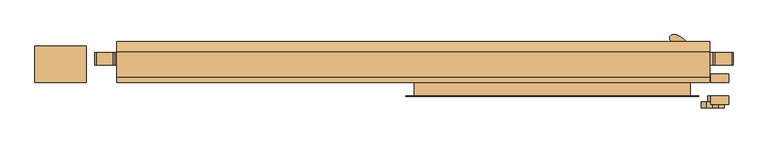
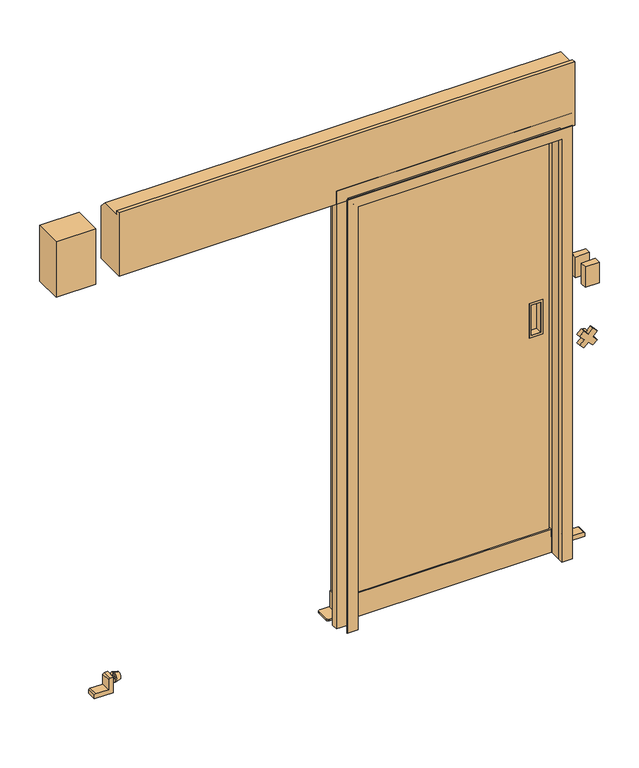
"""IFC4 building model written with IfcOpenShell, lengths in millimetres: door geometry, 冷蔵_片引きスライドドア3方_電動 : W870xH1905xt55."""

from ifc_helpers import new_model, si_unit, point, frame, frame_2d, origin, origin_with_axes, place, context, project, spatial, polyline, circle_curve, trimmed, segment, composite_curve, outline, extrude, faceted_brep, source, transform, mapped, element, save
from ifc_brep_helpers import plane_surface, cylinder_surface, revolved_surface, advanced_brep


def door_3e6fd68f(model_context):
    return source(origin(), model_context, "Body", "SolidModel", [
        faceted_brep([(470.0, 112.5, 1940.0), (-470.0, 112.5, 1940.0), (-470.0, 68.5, 1940.0), (470.0, 68.5, 1940.0), (470.0, 112.5, 70.0), (470.0, 68.5, 70.0), (425.0, 68.5, 70.0), (425.0, 57.5, 70.0), (-425.0, 57.5, 70.0), (-425.0, 68.5, 70.0), (-470.0, 68.5, 70.0), (-470.0, 112.5, 70.0), (-425.0, 68.5, 1895.0), (425.0, 68.5, 1895.0), (-425.0, 57.5, 1895.0), (425.0, 57.5, 1895.0), (350.500035, 57.5, 1138.0), (390.500035, 57.5, 1138.0), (390.500035, 57.5, 1002.0), (350.500035, 57.5, 1002.0), (350.500035, 85.5, 1138.0), (390.500035, 85.5, 1138.0), (350.500035, 85.5, 1002.0), (390.500035, 85.5, 1002.0)], [[[0, 1, 2, 3]], [[4, 5, 6, 7, 8, 9, 10, 11]], [[1, 0, 4, 11]], [[2, 1, 11, 10]], [[3, 2, 10, 9, 12, 13, 6, 5]], [[0, 3, 5, 4]], [[12, 14, 15, 13]], [[14, 12, 9, 8]], [[15, 14, 8, 7], [16, 17, 18, 19]], [[13, 15, 7, 6]], [[20, 21, 17, 16]], [[20, 16, 19, 22]], [[22, 19, 18, 23]], [[17, 21, 23, 18]], [[21, 20, 22, 23]]]),
        extrude(outline(polyline([(1147.0, 399.500035), (1147.0, 341.500035), (993.0, 341.500035), (993.0, 399.500035), (1147.0, 399.500035)]), holes=[polyline([(1002.0, 390.500035), (1002.0, 350.500035), (1138.0, 350.500035), (1138.0, 390.500035), (1002.0, 390.500035)])]), frame((0.0, 55.499995, 0.0), z_axis=(0.0, 1.0, 0.0), x_axis=(0.0, 0.0, 1.0)), (0.0, 0.0, 1.0), 2.000005),
        extrude(outline(polyline([(73.49997, 35.00001), (61.49997, 47.00001), (61.49997, 110.00001), (111.49997, 110.00001), (111.49997, 35.00001), (73.49997, 35.00001)])), frame((-476.0, 0.0, 0.0), z_axis=(1.0, 0.0, 0.0), x_axis=(0.0, 1.0, 0.0)), (0.0, 0.0, 1.0), 6.0),
        extrude(outline(polyline([(73.49997, 35.00001), (61.49997, 47.00001), (61.49997, 110.00001), (111.49997, 110.00001), (111.49997, 35.00001), (73.49997, 35.00001)])), frame((470.0, 0.0, 0.0), z_axis=(1.0, 0.0, 0.0), x_axis=(0.0, 1.0, 0.0)), (0.0, 0.0, 1.0), 6.0),
        extrude(outline(polyline([(470.0, 112.5), (470.0, 77.49997), (-470.0, 77.49997), (-470.0, 112.5), (470.0, 112.5)])), frame((0.0, 0.0, 35.00001), z_axis=(0.0, 0.0, 1.0), x_axis=(1.0, 0.0, 0.0)), (0.0, 0.0, 1.0), 34.99999),
        extrude(outline(polyline([(-432.0, 68.5), (432.0, 68.5), (432.0, 51.499345), (-432.0, 51.499345), (-432.0, 68.5)])), frame((0.0, 0.0, -0.004205), z_axis=(0.0, 0.0, 1.0), x_axis=(1.0, 0.0, 0.0)), (0.0, 0.0, 1.0), 105.0),
        extrude(outline(polyline([(460.4985861, 48.9116213), (432.5014439, 48.9116213), (432.5014439, 68.5), (460.4985861, 68.5), (460.4985861, 48.9116213)])), frame((0.0, 0.0, 70.0), z_axis=(0.0, 0.0, 1.0), x_axis=(1.0, 0.0, 0.0)), (0.0, 0.0, 1.0), 1825.0),
        extrude(outline(polyline([(-460.4985861, 48.9116213), (-460.4985861, 68.5), (-432.5014439, 68.5), (-432.5014439, 48.9116213), (-460.4985861, 48.9116213)])), frame((0.0, 0.0, 70.0), z_axis=(0.0, 0.0, 1.0), x_axis=(1.0, 0.0, 0.0)), (0.0, 0.0, 1.0), 1825.0),
        extrude(outline(polyline([(460.4985861, 68.5), (460.4985861, 48.9116213), (-460.4985861, 48.9116213), (-460.4985861, 68.5), (460.4985861, 68.5)])), frame((0.0, 0.0, 1902.4986091), z_axis=(0.0, 0.0, 1.0), x_axis=(1.0, 0.0, 0.0)), (0.0, 0.0, 1.0), 28.0),
        extrude(outline(polyline([(578.59682, -49.2), (518.59706, -49.2), (518.59706, -22.0), (578.59682, -22.0), (578.59682, -49.2)])), frame((0.0, 0.0, 1222.99977), z_axis=(0.0, 0.0, 1.0), x_axis=(1.0, 0.0, 0.0)), (0.0, 0.0, 1.0), 93.00027),
        extrude(outline(polyline([(578.59682, 22.0), (518.59706, 22.0), (518.59706, 49.2056305), (578.59682, 49.2056305), (578.59682, 22.0)])), frame((0.0, 0.0, 1222.99977), z_axis=(0.0, 0.0, 1.0), x_axis=(1.0, 0.0, 0.0)), (0.0, 0.0, 1.0), 93.00027),
        extrude(outline(polyline([(1037.123106, 544.9454365), (1017.6776695, 525.5), (1037.123106, 506.0545635), (1019.4454365, 488.376894), (1000.0, 507.8223305), (980.5545635, 488.376894), (962.876894, 506.0545635), (982.3223305, 525.5), (962.876894, 544.9454365), (980.5545635, 562.623106), (1000.0, 543.1776695), (1019.4454365, 562.623106), (1037.123106, 544.9454365)])), frame((0.0, -62.0, 0.0), z_axis=(0.0, 1.0, 0.0), x_axis=(0.0, 0.0, 1.0)), (0.0, 0.0, 1.0), 20.0),
        extrude(outline(composite_curve([segment(trimmed(circle_curve(frame_2d((1000.0, 525.5)), 16.99999), [point((983.00001, 525.5))], [point((1016.99999, 525.5))], False, "CARTESIAN"), True, "CONTINUOUS"), segment(trimmed(circle_curve(frame_2d((1000.0, 525.5)), 16.99999), [point((1016.99999, 525.5))], [point((983.00001, 525.5))], False, "CARTESIAN"), True, "CONTINUOUS")], self_intersect=False)), frame((0.0, -42.0, 0.0), z_axis=(0.0, 1.0, 0.0), x_axis=(0.0, 0.0, 1.0)), (0.0, 0.0, 1.0), 20.0),
        advanced_brep(
        [(-1404.999995, 100.0, 32.99147), (-1404.999995, 100.0, 72.98458), (-1404.999995, 100.0, 60.988025), (-1404.999995, 100.0, 44.988025), (-1400.999995, 100.0, 32.99147), (-1400.999995, 100.0, 72.98458), (-1380.999995, 100.0, 37.9914727), (-1380.999995, 100.0, 67.9845773), (-1380.999995, 100.0, 52.988025), (-1416.99999, 100.0, 44.988025), (-1416.99999, 100.0, 60.988025), (-1416.99999, 100.0, 52.988025)],
        [
            (0, 1, circle_curve(frame((-1404.999995, 100.0, 52.988025), z_axis=(-1.0, 0.0, 0.0), x_axis=(0.0, 0.0, 1.0)), 19.996555)),
            (1, 2),
            (2, 3, circle_curve(frame((-1404.999995, 100.0, 52.988025), z_axis=(1.0, 0.0, 0.0), x_axis=(0.0, 0.0, 1.0)), 8.0)),
            (3, 0),
            (1, 0, circle_curve(frame((-1404.999995, 100.0, 52.988025), z_axis=(-1.0, 0.0, 0.0), x_axis=(0.0, 0.0, 1.0)), 19.996555)),
            (3, 2, circle_curve(frame((-1404.999995, 100.0, 52.988025), z_axis=(1.0, 0.0, 0.0), x_axis=(0.0, 0.0, 1.0)), 8.0)),
            (4, 5, circle_curve(frame((-1400.999995, 100.0, 52.988025), z_axis=(-1.0, 0.0, 0.0), x_axis=(0.0, 0.0, 1.0)), 19.996555)),
            (5, 1),
            (0, 4),
            (5, 4, circle_curve(frame((-1400.999995, 100.0, 52.988025), z_axis=(-1.0, 0.0, 0.0), x_axis=(0.0, 0.0, 1.0)), 19.996555)),
            (6, 7, circle_curve(frame((-1380.999995, 100.0, 52.988025), z_axis=(-1.0, 0.0, 0.0), x_axis=(0.0, 0.0, 1.0)), 14.9965523)),
            (7, 5),
            (4, 6),
            (7, 6, circle_curve(frame((-1380.999995, 100.0, 52.988025), z_axis=(-1.0, 0.0, 0.0), x_axis=(0.0, 0.0, 1.0)), 14.9965523)),
            (8, 7),
            (6, 8),
            (9, 10, circle_curve(frame((-1416.99999, 100.0, 52.988025), z_axis=(-1.0, 0.0, 0.0), x_axis=(0.0, 0.0, 1.0)), 8.0)),
            (10, 11),
            (11, 9),
            (10, 9, circle_curve(frame((-1416.99999, 100.0, 52.988025), z_axis=(-1.0, 0.0, 0.0), x_axis=(0.0, 0.0, 1.0)), 8.0)),
            (2, 10),
            (9, 3),
        ],
        [
            plane_surface(frame((-1404.999995, 100.0, 52.988025), z_axis=(-1.0, 0.0, 0.0), x_axis=(0.0, 0.0, 1.0))),
            cylinder_surface(frame((-1380.999995, 100.0, 52.988025), z_axis=(1.0, 0.0, 0.0), x_axis=(0.0, 0.0, 1.0)), 19.996555),
            revolved_surface(polyline([(-1400.999995, 100.0, 72.98458), (-1380.999995, 100.0, 67.9845773)]), (-1380.999995, 100.0, 52.988025), (1.0, 0.0, 0.0)),
            plane_surface(frame((-1380.999995, 100.0, 52.988025), z_axis=(1.0, 0.0, 0.0), x_axis=(0.0, 0.0, 1.0))),
            plane_surface(frame((-1416.99999, 100.0, 52.988025), z_axis=(-1.0, 0.0, 0.0), x_axis=(0.0, 0.0, 1.0))),
            cylinder_surface(frame((-1380.999995, 100.0, 52.988025), z_axis=(1.0, 0.0, 0.0), x_axis=(0.0, 0.0, 1.0)), 8.0),
        ],
        [
            (0, [[1, 2, 3, 4]]),
            (0, [[5, -4, 6, -2]]),
            (1, [[7, 8, -1, 9]]),
            (1, [[10, -9, -5, -8]]),
            (2, [[11, 12, -7, 13]]),
            (2, [[14, -13, -10, -12]]),
            (3, [[15, -11, 16]]),
            (3, [[-16, -14, -15]]),
            (4, [[17, 18, 19]]),
            (4, [[20, -19, -18]]),
            (5, [[-3, 21, -17, 22]]),
            (5, [[-6, -22, -20, -21]]),
        ],
    ),
        extrude(outline(polyline([(0.000626, -1416.99999), (69.99063, -1416.99999), (69.99771, -1431.99999), (64.99725, -1437.0), (19.99062, -1437.0), (19.99311, -1491.99999), (14.99265, -1497.0), (-0.00939, -1497.0), (0.000626, -1416.99999)])), frame((0.0, 78.99775, 0.0), z_axis=(0.0, 1.0, 0.0), x_axis=(0.0, 0.0, 1.0)), (0.0, 0.0, 1.0), 42.00225),
        advanced_brep(
        [(499.999995, 100.0, 32.99147), (499.999995, 100.0, 72.98458), (499.999995, 100.0, 60.988025), (499.999995, 100.0, 44.988025), (495.999995, 100.0, 32.99147), (495.999995, 100.0, 72.98458), (475.999995, 100.0, 37.9914727), (475.999995, 100.0, 67.9845773), (475.999995, 100.0, 52.988025), (511.99999, 100.0, 44.988025), (511.99999, 100.0, 60.988025), (511.99999, 100.0, 52.988025)],
        [
            (0, 1, circle_curve(frame((499.999995, 100.0, 52.988025), z_axis=(1.0, 0.0, 0.0), x_axis=(0.0, 0.0, 1.0)), 19.996555)),
            (1, 2),
            (2, 3, circle_curve(frame((499.999995, 100.0, 52.988025), z_axis=(-1.0, 0.0, 0.0), x_axis=(0.0, 0.0, 1.0)), 8.0)),
            (3, 0),
            (1, 0, circle_curve(frame((499.999995, 100.0, 52.988025), z_axis=(1.0, 0.0, 0.0), x_axis=(0.0, 0.0, 1.0)), 19.996555)),
            (3, 2, circle_curve(frame((499.999995, 100.0, 52.988025), z_axis=(-1.0, 0.0, 0.0), x_axis=(0.0, 0.0, 1.0)), 8.0)),
            (4, 5, circle_curve(frame((495.999995, 100.0, 52.988025), z_axis=(1.0, 0.0, 0.0), x_axis=(0.0, 0.0, 1.0)), 19.996555)),
            (5, 1),
            (0, 4),
            (5, 4, circle_curve(frame((495.999995, 100.0, 52.988025), z_axis=(1.0, 0.0, 0.0), x_axis=(0.0, 0.0, 1.0)), 19.996555)),
            (6, 7, circle_curve(frame((475.999995, 100.0, 52.988025), z_axis=(1.0, 0.0, 0.0), x_axis=(0.0, 0.0, 1.0)), 14.9965523)),
            (7, 5),
            (4, 6),
            (7, 6, circle_curve(frame((475.999995, 100.0, 52.988025), z_axis=(1.0, 0.0, 0.0), x_axis=(0.0, 0.0, 1.0)), 14.9965523)),
            (8, 7),
            (6, 8),
            (9, 10, circle_curve(frame((511.99999, 100.0, 52.988025), z_axis=(1.0, 0.0, 0.0), x_axis=(0.0, 0.0, 1.0)), 8.0)),
            (10, 11),
            (11, 9),
            (10, 9, circle_curve(frame((511.99999, 100.0, 52.988025), z_axis=(1.0, 0.0, 0.0), x_axis=(0.0, 0.0, 1.0)), 8.0)),
            (2, 10),
            (9, 3),
        ],
        [
            plane_surface(frame((499.999995, 100.0, 52.988025), z_axis=(1.0, 0.0, 0.0), x_axis=(0.0, 0.0, 1.0))),
            cylinder_surface(frame((475.999995, 100.0, 52.988025), z_axis=(-1.0, 0.0, 0.0), x_axis=(0.0, 0.0, 1.0)), 19.996555),
            revolved_surface(polyline([(495.999995, 100.0, 72.98458), (475.999995, 100.0, 67.9845773)]), (475.999995, 100.0, 52.988025), (-1.0, 0.0, 0.0)),
            plane_surface(frame((475.999995, 100.0, 52.988025), z_axis=(-1.0, 0.0, 0.0), x_axis=(0.0, 0.0, 1.0))),
            plane_surface(frame((511.99999, 100.0, 52.988025), z_axis=(1.0, 0.0, 0.0), x_axis=(0.0, 0.0, 1.0))),
            cylinder_surface(frame((475.999995, 100.0, 52.988025), z_axis=(-1.0, 0.0, 0.0), x_axis=(0.0, 0.0, 1.0)), 8.0),
        ],
        [
            (0, [[1, 2, 3, 4]]),
            (0, [[5, -4, 6, -2]]),
            (1, [[7, 8, -1, 9]]),
            (1, [[10, -9, -5, -8]]),
            (2, [[11, 12, -7, 13]]),
            (2, [[14, -13, -10, -12]]),
            (3, [[15, -11, 16]]),
            (3, [[-16, -14, -15]]),
            (4, [[17, 18, 19]]),
            (4, [[20, -19, -18]]),
            (5, [[-3, 21, -17, 22]]),
            (5, [[-6, -22, -20, -21]]),
        ],
    ),
        extrude(outline(polyline([(0.000626, 511.99999), (-0.00939, 592.0), (14.99265, 592.0), (19.99311, 586.99999), (19.99062, 532.0), (64.99725, 532.0), (69.99771, 526.99999), (69.99063, 511.99999), (0.000626, 511.99999)])), frame((0.0, 79.0, 0.0), z_axis=(0.0, 1.0, 0.0), x_axis=(0.0, 0.0, 1.0)), (0.0, 0.0, 1.0), 42.00225),
        extrude(outline(composite_curve([segment(polyline([(-434.0, 141.49999), (-434.0, 90.49999)]), True, "CONTINUOUS"), segment(trimmed(circle_curve(frame_2d((-444.0, 90.49999)), 10.0), [point((-434.0, 90.49999))], [point((-444.0, 80.49999))], False, "CARTESIAN"), True, "CONTINUOUS"), segment(polyline([(-444.0, 80.49999), (-495.000795, 80.49999)]), True, "CONTINUOUS"), segment(trimmed(circle_curve(frame_2d((-495.000795, 90.49999)), 10.0), [point((-495.000795, 80.49999))], [point((-505.000795, 90.49999))], False, "CARTESIAN"), True, "CONTINUOUS"), segment(polyline([(-505.000795, 90.49999), (-505.000795, 141.49999)]), True, "CONTINUOUS"), segment(trimmed(circle_curve(frame_2d((-495.000795, 141.49999)), 10.0), [point((-505.000795, 141.49999))], [point((-495.000795, 151.49999))], False, "CARTESIAN"), True, "CONTINUOUS"), segment(polyline([(-495.000795, 151.49999), (-444.0, 151.49999)]), True, "CONTINUOUS"), segment(trimmed(circle_curve(frame_2d((-444.0, 141.49999)), 10.0), [point((-444.0, 151.49999))], [point((-434.0, 141.49999))], False, "CARTESIAN"), True, "CONTINUOUS")], self_intersect=False)), origin_with_axes(), (0.0, 0.0, 1.0), 6.0),
        extrude(outline(composite_curve([segment(polyline([(504.50008, 141.49999), (504.50008, 90.49999)]), True, "CONTINUOUS"), segment(trimmed(circle_curve(frame_2d((494.50008, 90.49999)), 10.0), [point((504.50008, 90.49999))], [point((494.50008, 80.49999))], False, "CARTESIAN"), True, "CONTINUOUS"), segment(polyline([(494.50008, 80.49999), (443.499285, 80.49999)]), True, "CONTINUOUS"), segment(trimmed(circle_curve(frame_2d((443.499285, 90.49999)), 10.0), [point((443.499285, 80.49999))], [point((433.499285, 90.49999))], False, "CARTESIAN"), True, "CONTINUOUS"), segment(polyline([(433.499285, 90.49999), (433.499285, 141.49999)]), True, "CONTINUOUS"), segment(trimmed(circle_curve(frame_2d((443.499285, 141.49999)), 10.0), [point((433.499285, 141.49999))], [point((443.499285, 151.49999))], False, "CARTESIAN"), True, "CONTINUOUS"), segment(polyline([(443.499285, 151.49999), (494.50008, 151.49999)]), True, "CONTINUOUS"), segment(trimmed(circle_curve(frame_2d((494.50008, 141.49999)), 10.0), [point((494.50008, 151.49999))], [point((504.50008, 141.49999))], False, "CARTESIAN"), True, "CONTINUOUS")], self_intersect=False)), origin_with_axes(), (0.0, 0.0, 1.0), 5.99685),
        extrude(outline(polyline([(155.5, 2147.61005), (155.5, 1910.000385), (22.0, 1910.000385), (22.0, 2195.0), (38.499875, 2195.0), (38.499875, 2179.99995), (123.1101, 2179.99995), (155.5, 2147.61005)])), frame((-1425.0, 0.0, 0.0), z_axis=(1.0, 0.0, 0.0), x_axis=(0.0, 1.0, 0.0)), (0.0, 0.0, 1.0), 1940.0),
        faceted_brep([(-435.0, -22.0, 0.0), (-451.00103, -22.0, 0.0), (-451.00103, 22.0, 0.0), (-500.0, 22.0, 0.0), (-500.0, 49.0, 0.0), (-435.0, 49.0, 0.0), (-435.0, -22.0, 1905.0), (435.0, -22.0, 1905.0), (435.0, -22.0, 0.0), (451.00103, -22.0, 0.0), (451.00103, -22.0, 1921.00103), (-451.00103, -22.0, 1921.00103), (-451.00103, 22.0, 1921.00103), (451.00103, 22.0, 1921.00103), (451.00103, 22.0, 0.0), (500.0, 22.0, 0.0), (500.0, 22.0, 1970.0), (-500.0, 22.0, 1970.0), (-500.0, 49.0, 1970.0), (500.0, 49.0, 1970.0), (500.0, 49.0, 0.0), (435.0, 49.0, 0.0), (435.0, 49.0, 1905.0), (-435.0, 49.0, 1905.0)], [[[0, 1, 2, 3, 4, 5]], [[1, 0, 6, 7, 8, 9, 10, 11]], [[2, 1, 11, 12]], [[3, 2, 12, 13, 14, 15, 16, 17]], [[4, 3, 17, 18]], [[5, 4, 18, 19, 20, 21, 22, 23]], [[0, 5, 23, 6]], [[7, 22, 21, 8]], [[8, 21, 20, 15, 14, 9]], [[13, 10, 9, 14]], [[19, 16, 15, 20]], [[12, 11, 10, 13]], [[18, 17, 16, 19]], [[6, 23, 22, 7]]]),
        faceted_brep([(-479.0, -23.2, 0.0), (-479.0, -22.0, 0.0), (-435.0, -22.0, 0.0), (-435.0, -1.2, 0.0), (-433.8, -1.2, 0.0), (-433.8, -23.2, 0.0), (-479.0, -23.2, 1949.0), (-479.0, -22.0, 1949.0), (479.0, -22.0, 1949.0), (479.0, -22.0, 0.0), (435.0, -22.0, 0.0), (435.0, -22.0, 1905.0), (-435.0, -22.0, 1905.0), (-435.0, -1.2, 1905.0), (435.0, -1.2, 1905.0), (435.0, -1.2, 0.0), (433.8, -1.2, 0.0), (433.8, -1.2, 1903.8), (-433.8, -1.2, 1903.8), (-433.8, -23.2, 1903.8), (433.8, -23.2, 1903.8), (433.8, -23.2, 0.0), (479.0, -23.2, 0.0), (479.0, -23.2, 1949.0)], [[[0, 1, 2, 3, 4, 5]], [[1, 0, 6, 7]], [[2, 1, 7, 8, 9, 10, 11, 12]], [[3, 2, 12, 13]], [[4, 3, 13, 14, 15, 16, 17, 18]], [[5, 4, 18, 19]], [[0, 5, 19, 20, 21, 22, 23, 6]], [[8, 23, 22, 9]], [[22, 21, 16, 15, 10, 9]], [[14, 11, 10, 15]], [[20, 17, 16, 21]], [[7, 6, 23, 8]], [[13, 12, 11, 14]], [[19, 18, 17, 20]]]),
        advanced_brep(
        [(408.6234406, 177.3571279, 850.0), (408.6234402, 157.6428419, 850.0), (404.50281, 156.499985, 850.0), (393.89726, 156.499985, 850.0), (389.7766295, 157.6428424, 850.0), (389.7766298, 177.3571281, 850.0), (393.89726, 178.499985, 850.0), (404.50281, 178.499985, 850.0), (408.6234406, 177.3571279, 1350.0), (408.6234402, 157.6428419, 1350.0), (404.50281, 156.499985, 1350.0), (393.89726, 156.499985, 1350.0), (389.7766295, 157.6428424, 1350.0), (389.7766298, 177.3571281, 1350.0), (393.89726, 178.499985, 1350.0), (404.50281, 178.499985, 1350.0)],
        [
            (0, 1, circle_curve(frame((402.700035, 167.499985, 850.0), z_axis=(0.0, 0.0, -1.0), x_axis=(0.0, -1.0, 0.0)), 11.5)),
            (1, 2, circle_curve(frame((404.50281, 164.499985, 850.0), z_axis=(0.0, 0.0, -1.0), x_axis=(0.0, -1.0, 0.0)), 8.0)),
            (2, 3),
            (3, 4, circle_curve(frame((393.89726, 164.499985, 850.0), z_axis=(0.0, 0.0, -1.0), x_axis=(0.0, -1.0, 0.0)), 8.0)),
            (4, 5, circle_curve(frame((395.700035, 167.499985, 850.0), z_axis=(0.0, 0.0, -1.0), x_axis=(0.0, -1.0, 0.0)), 11.5)),
            (5, 6, circle_curve(frame((393.89726, 170.499985, 850.0), z_axis=(0.0, 0.0, -1.0), x_axis=(0.0, -1.0, 0.0)), 8.0)),
            (6, 7),
            (7, 0, circle_curve(frame((404.50281, 170.499985, 850.0), z_axis=(0.0, 0.0, -1.0), x_axis=(0.0, -1.0, 0.0)), 8.0)),
            (8, 9, circle_curve(frame((402.700035, 167.499985, 1350.0), z_axis=(0.0, 0.0, -1.0), x_axis=(0.0, -1.0, 0.0)), 11.5)),
            (9, 1),
            (0, 8),
            (9, 10, circle_curve(frame((404.50281, 164.499985, 1350.0), z_axis=(0.0, 0.0, -1.0), x_axis=(0.0, -1.0, 0.0)), 8.0)),
            (10, 2),
            (10, 11),
            (11, 3),
            (11, 12, circle_curve(frame((393.89726, 164.499985, 1350.0), z_axis=(0.0, 0.0, -1.0), x_axis=(0.0, -1.0, 0.0)), 8.0)),
            (12, 4),
            (12, 13, circle_curve(frame((395.700035, 167.499985, 1350.0), z_axis=(0.0, 0.0, -1.0), x_axis=(0.0, -1.0, 0.0)), 11.5)),
            (13, 5),
            (13, 14, circle_curve(frame((393.89726, 170.499985, 1350.0), z_axis=(0.0, 0.0, -1.0), x_axis=(0.0, -1.0, 0.0)), 8.0)),
            (14, 6),
            (14, 15),
            (15, 7),
            (15, 8, circle_curve(frame((404.50281, 170.499985, 1350.0), z_axis=(0.0, 0.0, -1.0), x_axis=(0.0, -1.0, 0.0)), 8.0)),
        ],
        [
            plane_surface(frame((404.50281, 162.499985, 850.0), z_axis=(0.0, 0.0, -1.0), x_axis=(-1.0, 0.0, 0.0))),
            cylinder_surface(frame((402.700035, 167.499985, 850.0), z_axis=(0.0, 0.0, 1.0), x_axis=(0.0, -1.0, 0.0)), 11.5),
            cylinder_surface(frame((404.50281, 164.499985, 850.0), z_axis=(0.0, 0.0, 1.0), x_axis=(0.0, -1.0, 0.0)), 8.0),
            plane_surface(frame((393.89726, 156.499985, 1350.0), z_axis=(0.0, -1.0, 0.0), x_axis=(0.0, 0.0, -1.0))),
            cylinder_surface(frame((393.89726, 164.499985, 850.0), z_axis=(0.0, 0.0, 1.0), x_axis=(0.0, -1.0, 0.0)), 8.0),
            cylinder_surface(frame((395.700035, 167.499985, 850.0), z_axis=(0.0, 0.0, 1.0), x_axis=(0.0, -1.0, 0.0)), 11.5),
            cylinder_surface(frame((393.89726, 170.499985, 850.0), z_axis=(0.0, 0.0, 1.0), x_axis=(0.0, -1.0, 0.0)), 8.0),
            plane_surface(frame((404.50281, 178.499985, 1350.0), z_axis=(0.0, 1.0, 0.0), x_axis=(0.0, 0.0, -1.0))),
            cylinder_surface(frame((404.50281, 170.499985, 850.0), z_axis=(0.0, 0.0, 1.0), x_axis=(0.0, -1.0, 0.0)), 8.0),
            plane_surface(frame((404.50281, 162.499985, 1350.0), z_axis=(0.0, 0.0, 1.0), x_axis=(1.0, 0.0, 0.0))),
        ],
        [
            (0, [[1, 2, 3, 4, 5, 6, 7, 8]]),
            (1, [[9, 10, -1, 11]]),
            (2, [[12, 13, -2, -10]]),
            (3, [[14, 15, -3, -13]]),
            (4, [[16, 17, -4, -15]]),
            (5, [[18, 19, -5, -17]]),
            (6, [[20, 21, -6, -19]]),
            (7, [[22, 23, -7, -21]]),
            (8, [[24, -11, -8, -23]]),
            (9, [[-24, -22, -20, -18, -16, -14, -12, -9]]),
        ],
    ),
        advanced_brep(
        [(393.89726, 178.499985, 830.0), (405.9684363, 178.499985, 830.0), (406.9851731, 178.322439, 830.0), (450.0081033, 133.5570327, 830.0), (451.4023369, 124.5176673, 830.0), (451.4023369, 112.5, 830.0), (408.600035, 112.5, 830.0), (408.600035, 132.0779954, 830.0), (398.0156732, 156.499985, 830.0), (393.89726, 156.499985, 830.0), (389.7766295, 157.6428424, 830.0), (389.7766298, 177.3571281, 830.0), (393.89726, 178.499985, 850.0), (389.77663, 177.3571279, 850.0), (389.7766294, 157.6428421, 850.0), (393.89726, 156.499985, 850.0), (398.0156732, 156.499985, 850.0), (408.600035, 132.0779954, 850.0), (408.600035, 112.5, 850.0), (451.4023369, 112.5, 850.0), (451.4023369, 124.5176673, 850.0), (450.0081033, 133.5570327, 850.0), (406.9851731, 178.322439, 850.0), (405.9684363, 178.499985, 850.0)],
        [
            (0, 1),
            (1, 2, circle_curve(frame((405.9684363, 175.499985, 830.0), z_axis=(0.0, 0.0, -1.0), x_axis=(0.0, -1.0, 0.0)), 3.0)),
            (2, 3, circle_curve(frame((383.261315, 112.46518, 830.0), z_axis=(0.0, 0.0, -1.0), x_axis=(0.0, -1.0, 0.0)), 70.0)),
            (3, 4, circle_curve(frame((421.4023369, 124.5176673, 830.0), z_axis=(0.0, 0.0, -1.0), x_axis=(0.0, -1.0, 0.0)), 30.0)),
            (4, 5),
            (5, 6),
            (6, 7),
            (7, 8, circle_curve(frame((375.1326278, 132.0779954, 830.0), z_axis=(0.0, 0.0, 1.0), x_axis=(0.0, -1.0, 0.0)), 33.4674072)),
            (8, 9),
            (9, 10, circle_curve(frame((393.89726, 164.499985, 830.0), z_axis=(0.0, 0.0, -1.0), x_axis=(0.0, -1.0, 0.0)), 8.0)),
            (10, 11, circle_curve(frame((395.700035, 167.499985, 830.0), z_axis=(0.0, 0.0, -1.0), x_axis=(0.0, -1.0, 0.0)), 11.5)),
            (11, 0, circle_curve(frame((393.89726, 170.499985, 830.0), z_axis=(0.0, 0.0, -1.0), x_axis=(0.0, -1.0, 0.0)), 8.0)),
            (12, 13, circle_curve(frame((393.89726, 170.499985, 850.0), z_axis=(0.0, 0.0, 1.0), x_axis=(0.0, -1.0, 0.0)), 8.0)),
            (13, 14, circle_curve(frame((395.700035, 167.499985, 850.0), z_axis=(0.0, 0.0, 1.0), x_axis=(0.0, -1.0, 0.0)), 11.5)),
            (14, 15, circle_curve(frame((393.89726, 164.499985, 850.0), z_axis=(0.0, 0.0, 1.0), x_axis=(0.0, -1.0, 0.0)), 8.0)),
            (15, 16),
            (16, 17, circle_curve(frame((375.1326278, 132.0779954, 850.0), z_axis=(0.0, 0.0, -1.0), x_axis=(0.0, -1.0, 0.0)), 33.4674072)),
            (17, 18),
            (18, 19),
            (19, 20),
            (20, 21, circle_curve(frame((421.4023369, 124.5176673, 850.0), z_axis=(0.0, 0.0, 1.0), x_axis=(0.0, -1.0, 0.0)), 30.0)),
            (21, 22, circle_curve(frame((383.261315, 112.46518, 850.0), z_axis=(0.0, 0.0, 1.0), x_axis=(0.0, -1.0, 0.0)), 70.0)),
            (22, 23, circle_curve(frame((405.9684363, 175.499985, 850.0), z_axis=(0.0, 0.0, 1.0), x_axis=(0.0, -1.0, 0.0)), 3.0)),
            (23, 12),
            (23, 1),
            (0, 12),
            (11, 13),
            (10, 14),
            (9, 15),
            (8, 16),
            (17, 7),
            (6, 18),
            (5, 19),
            (4, 20),
            (3, 21),
            (2, 22),
        ],
        [
            plane_surface(frame((393.89726, 162.499985, 830.0), z_axis=(0.0, 0.0, -1.0), x_axis=(-1.0, 0.0, 0.0))),
            plane_surface(frame((393.89726, 162.499985, 850.0), z_axis=(0.0, 0.0, 1.0), x_axis=(1.0, 0.0, 0.0))),
            plane_surface(frame((405.9684363, 178.499985, 850.0), z_axis=(0.0, 1.0, 0.0), x_axis=(0.0, 0.0, -1.0))),
            cylinder_surface(frame((393.89726, 170.499985, 830.0), z_axis=(0.0, 0.0, 1.0), x_axis=(0.0, -1.0, 0.0)), 8.0),
            cylinder_surface(frame((395.700035, 167.499985, 830.0), z_axis=(0.0, 0.0, 1.0), x_axis=(0.0, -1.0, 0.0)), 11.5),
            cylinder_surface(frame((393.89726, 164.499985, 830.0), z_axis=(0.0, 0.0, 1.0), x_axis=(0.0, -1.0, 0.0)), 8.0),
            plane_surface(frame((393.89726, 156.499985, 850.0), z_axis=(0.0, -1.0, 0.0), x_axis=(0.0, 0.0, -1.0))),
            plane_surface(frame((408.600035, 132.0779954, 850.0), z_axis=(-1.0, 0.0, 0.0), x_axis=(0.0, 0.0, -1.0))),
            plane_surface(frame((408.600035, 112.5, 850.0), z_axis=(0.0, -1.0, 0.0), x_axis=(0.0, 0.0, -1.0))),
            plane_surface(frame((451.4023369, 112.5, 850.0), z_axis=(1.0, 0.0, 0.0), x_axis=(0.0, 0.0, -1.0))),
            cylinder_surface(frame((421.4023369, 124.5176673, 830.0), z_axis=(0.0, 0.0, 1.0), x_axis=(0.0, -1.0, 0.0)), 30.0),
            cylinder_surface(frame((383.261315, 112.46518, 830.0), z_axis=(0.0, 0.0, 1.0), x_axis=(0.0, -1.0, 0.0)), 70.0),
            cylinder_surface(frame((405.9684363, 175.499985, 830.0), z_axis=(0.0, 0.0, 1.0), x_axis=(0.0, -1.0, 0.0)), 3.0),
            revolved_surface(polyline([(375.1326278, 98.6105882, 830.0), (375.1326278, 98.6105882, 850.0)]), (375.1326278, 132.0779954, 830.0), (0.0, 0.0, -1.0)),
        ],
        [
            (0, [[1, 2, 3, 4, 5, 6, 7, 8, 9, 10, 11, 12]]),
            (1, [[13, 14, 15, 16, 17, 18, 19, 20, 21, 22, 23, 24]]),
            (2, [[-24, 25, -1, 26]]),
            (3, [[-13, -26, -12, 27]]),
            (4, [[-14, -27, -11, 28]]),
            (5, [[-15, -28, -10, 29]]),
            (6, [[-16, -29, -9, 30]]),
            (7, [[-18, 31, -7, 32]]),
            (8, [[-19, -32, -6, 33]]),
            (9, [[-20, -33, -5, 34]]),
            (10, [[-21, -34, -4, 35]]),
            (11, [[-22, -35, -3, 36]]),
            (12, [[-23, -36, -2, -25]]),
            (13, [[-17, -30, -8, -31]]),
        ],
    ),
        advanced_brep(
        [(393.89726, 178.499985, 1370.0), (389.77663, 177.3571279, 1370.0), (389.7766294, 157.6428421, 1370.0), (393.89726, 156.499985, 1370.0), (398.0156732, 156.499985, 1370.0), (408.600035, 132.0779954, 1370.0), (408.600035, 112.5, 1370.0), (451.4023369, 112.5, 1370.0), (451.4023369, 124.5176673, 1370.0), (450.0081033, 133.5570327, 1370.0), (406.9851731, 178.322439, 1370.0), (405.9684363, 178.499985, 1370.0), (393.89726, 178.499985, 1349.99999), (405.9684363, 178.499985, 1349.99999), (406.9851731, 178.322439, 1349.99999), (450.0081033, 133.5570327, 1349.99999), (451.4023369, 124.5176673, 1349.99999), (451.4023369, 112.5, 1349.99999), (408.600035, 112.5, 1349.99999), (408.600035, 132.0779954, 1349.99999), (398.0156732, 156.499985, 1349.99999), (393.89726, 156.499985, 1349.99999), (389.7766295, 157.6428424, 1349.99999), (389.7766298, 177.3571281, 1349.99999)],
        [
            (0, 1, circle_curve(frame((393.89726, 170.499985, 1370.0), z_axis=(0.0, 0.0, 1.0), x_axis=(0.0, -1.0, 0.0)), 8.0)),
            (1, 2, circle_curve(frame((395.700035, 167.499985, 1370.0), z_axis=(0.0, 0.0, 1.0), x_axis=(0.0, -1.0, 0.0)), 11.5)),
            (2, 3, circle_curve(frame((393.89726, 164.499985, 1370.0), z_axis=(0.0, 0.0, 1.0), x_axis=(0.0, -1.0, 0.0)), 8.0)),
            (3, 4),
            (4, 5, circle_curve(frame((375.1326278, 132.0779954, 1370.0), z_axis=(0.0, 0.0, -1.0), x_axis=(0.0, -1.0, 0.0)), 33.4674072)),
            (5, 6),
            (6, 7),
            (7, 8),
            (8, 9, circle_curve(frame((421.4023369, 124.5176673, 1370.0), z_axis=(0.0, 0.0, 1.0), x_axis=(0.0, -1.0, 0.0)), 30.0)),
            (9, 10, circle_curve(frame((383.261315, 112.46518, 1370.0), z_axis=(0.0, 0.0, 1.0), x_axis=(0.0, -1.0, 0.0)), 70.0)),
            (10, 11, circle_curve(frame((405.9684363, 175.499985, 1370.0), z_axis=(0.0, 0.0, 1.0), x_axis=(0.0, -1.0, 0.0)), 3.0)),
            (11, 0),
            (12, 13),
            (13, 14, circle_curve(frame((405.9684363, 175.499985, 1349.99999), z_axis=(0.0, 0.0, -1.0), x_axis=(0.0, -1.0, 0.0)), 3.0)),
            (14, 15, circle_curve(frame((383.261315, 112.46518, 1349.99999), z_axis=(0.0, 0.0, -1.0), x_axis=(0.0, -1.0, 0.0)), 70.0)),
            (15, 16, circle_curve(frame((421.4023369, 124.5176673, 1349.99999), z_axis=(0.0, 0.0, -1.0), x_axis=(0.0, -1.0, 0.0)), 30.0)),
            (16, 17),
            (17, 18),
            (18, 19),
            (19, 20, circle_curve(frame((375.1326278, 132.0779954, 1349.99999), z_axis=(0.0, 0.0, 1.0), x_axis=(0.0, -1.0, 0.0)), 33.4674072)),
            (20, 21),
            (21, 22, circle_curve(frame((393.89726, 164.499985, 1349.99999), z_axis=(0.0, 0.0, -1.0), x_axis=(0.0, -1.0, 0.0)), 8.0)),
            (22, 23, circle_curve(frame((395.700035, 167.499985, 1349.99999), z_axis=(0.0, 0.0, -1.0), x_axis=(0.0, -1.0, 0.0)), 11.5)),
            (23, 12, circle_curve(frame((393.89726, 170.499985, 1349.99999), z_axis=(0.0, 0.0, -1.0), x_axis=(0.0, -1.0, 0.0)), 8.0)),
            (11, 13),
            (12, 0),
            (23, 1),
            (22, 2),
            (21, 3),
            (20, 4),
            (5, 19),
            (18, 6),
            (17, 7),
            (16, 8),
            (15, 9),
            (14, 10),
        ],
        [
            plane_surface(frame((393.89726, 162.499985, 1370.0), z_axis=(0.0, 0.0, 1.0), x_axis=(1.0, 0.0, 0.0))),
            plane_surface(frame((393.89726, 162.499985, 1349.99999), z_axis=(0.0, 0.0, -1.0), x_axis=(-1.0, 0.0, 0.0))),
            plane_surface(frame((405.9684363, 178.499985, 1370.0), z_axis=(0.0, 1.0, 0.0), x_axis=(0.0, 0.0, -1.0))),
            cylinder_surface(frame((393.89726, 170.499985, 1349.99999), z_axis=(0.0, 0.0, 1.0), x_axis=(0.0, -1.0, 0.0)), 8.0),
            cylinder_surface(frame((395.700035, 167.499985, 1349.99999), z_axis=(0.0, 0.0, 1.0), x_axis=(0.0, -1.0, 0.0)), 11.5),
            cylinder_surface(frame((393.89726, 164.499985, 1349.99999), z_axis=(0.0, 0.0, 1.0), x_axis=(0.0, -1.0, 0.0)), 8.0),
            plane_surface(frame((393.89726, 156.499985, 1370.0), z_axis=(0.0, -1.0, 0.0), x_axis=(0.0, 0.0, -1.0))),
            plane_surface(frame((408.600035, 132.0779954, 1370.0), z_axis=(-1.0, 0.0, 0.0), x_axis=(0.0, 0.0, -1.0))),
            plane_surface(frame((408.600035, 112.5, 1370.0), z_axis=(0.0, -1.0, 0.0), x_axis=(0.0, 0.0, -1.0))),
            plane_surface(frame((451.4023369, 112.5, 1370.0), z_axis=(1.0, 0.0, 0.0), x_axis=(0.0, 0.0, -1.0))),
            cylinder_surface(frame((421.4023369, 124.5176673, 1349.99999), z_axis=(0.0, 0.0, 1.0), x_axis=(0.0, -1.0, 0.0)), 30.0),
            cylinder_surface(frame((383.261315, 112.46518, 1349.99999), z_axis=(0.0, 0.0, 1.0), x_axis=(0.0, -1.0, 0.0)), 70.0),
            cylinder_surface(frame((405.9684363, 175.499985, 1349.99999), z_axis=(0.0, 0.0, 1.0), x_axis=(0.0, -1.0, 0.0)), 3.0),
            revolved_surface(polyline([(375.1326278, 98.6105882, 1349.99999), (375.1326278, 98.6105882, 1370.0)]), (375.1326278, 132.0779954, 1349.99999), (0.0, 0.0, -1.0)),
        ],
        [
            (0, [[1, 2, 3, 4, 5, 6, 7, 8, 9, 10, 11, 12]]),
            (1, [[13, 14, 15, 16, 17, 18, 19, 20, 21, 22, 23, 24]]),
            (2, [[-12, 25, -13, 26]]),
            (3, [[-1, -26, -24, 27]]),
            (4, [[-2, -27, -23, 28]]),
            (5, [[-3, -28, -22, 29]]),
            (6, [[-4, -29, -21, 30]]),
            (7, [[-6, 31, -19, 32]]),
            (8, [[-7, -32, -18, 33]]),
            (9, [[-8, -33, -17, 34]]),
            (10, [[-9, -34, -16, 35]]),
            (11, [[-10, -35, -15, 36]]),
            (12, [[-11, -36, -14, -25]]),
            (13, [[-5, -30, -20, -31]]),
        ],
    ),
        extrude(outline(polyline([(-1525.0, 22.0), (-1693.0, 22.0), (-1693.0, 142.0), (-1525.0, 142.0), (-1525.0, 22.0)])), frame((0.0, 0.0, 1910.000385), z_axis=(0.0, 0.0, 1.0), x_axis=(1.0, 0.0, 0.0)), (0.0, 0.0, 1.0), 250.0),
    ])


if __name__ == "__main__":
    model = new_model("IFC4")
    model_context = context("Model", 3, world=origin())
    ifc_project = project(units=[si_unit("LENGTHUNIT", "METRE", prefix="MILLI")], contexts=[model_context])
    site = spatial("IfcSite", under=ifc_project)
    building = spatial("IfcBuilding", under=site)
    placement = place(None, origin())
    door_shape = door_3e6fd68f(model_context)
    element("IfcDoor", 1, ObjectType="冷蔵_片引きスライドドア3方_電動 : W870xH1905xt55", at=placement, inside=building, context=model_context, shape_type="MappedRepresentation", body=[
        mapped(door_shape, transform((0.0, 0.0, 0.0), x_axis=(1.0, 0.0, 0.0), y_axis=(0.0, 1.0, 0.0), z_axis=(0.0, 0.0, 1.0))),
    ])
    save(model, "model.ifc")
